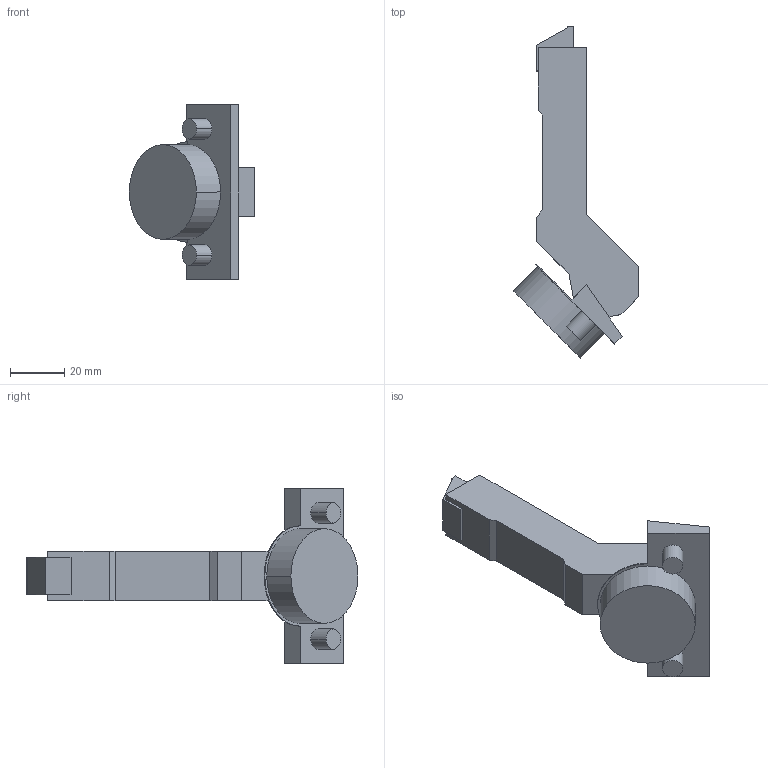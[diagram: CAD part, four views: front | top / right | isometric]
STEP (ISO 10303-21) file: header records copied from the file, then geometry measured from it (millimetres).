
FILE_DESCRIPTION (( 'STEP AP214' ), '1' );
FILE_NAME ('Scharnier TS Impresso 110°_+45° MB_BB, einliegend.step', '2010-12-13T10:22:13', ( 'grass' ), ( '' ), 'SwSTEP 2.0', 'SolidWorks 2010', '' );
FILE_SCHEMA (( 'AUTOMOTIVE_DESIGN' ));
Length unit declared in the file: millimetre
Products named in the file (1): Scharnier TS Impresso 110°_+45° MB_BB, einliegend
Bounding box: 46.28 x 122.48 x 64.5 mm (x, y, z)
Volume: 56936.2 mm3; surface area: 14933.8 mm2
Topology: 1 solids, 3 shells, 60 faces, 144 edges, 96 vertices
Faces by surface type: plane 43, cylinder 17
Entity records: 1772 total; most frequent: CARTESIAN_POINT 301, DIRECTION 300, ORIENTED_EDGE 288, EDGE_CURVE 144, LINE 110, VECTOR 110, VERTEX_POINT 96, AXIS2_PLACEMENT_3D 95
